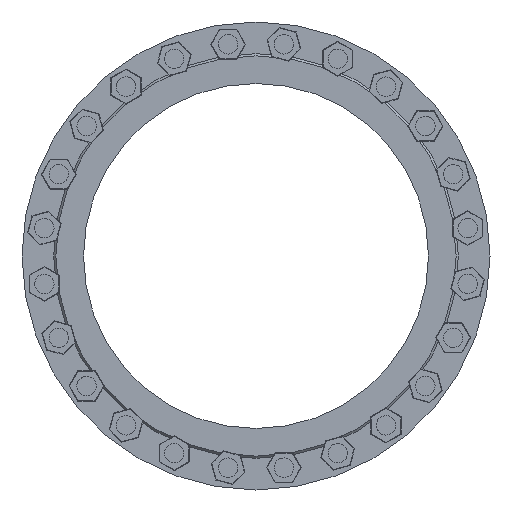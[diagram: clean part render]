
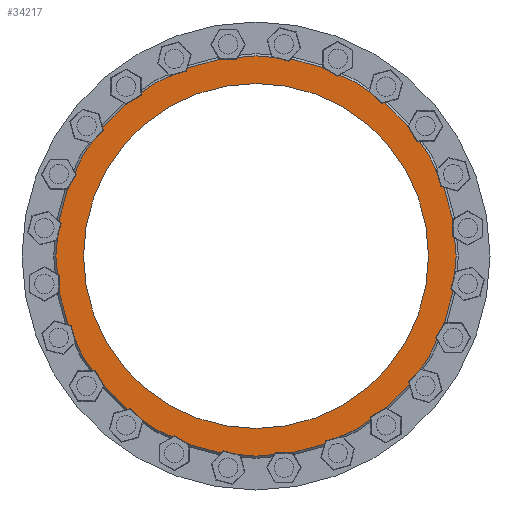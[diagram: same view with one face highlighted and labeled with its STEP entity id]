
A CAD part, left-side view. The second image highlights one B-rep face of the part: STEP entity #34217.
In plain terms, the highlighted planar face has unit normal (-1, 0, 0).
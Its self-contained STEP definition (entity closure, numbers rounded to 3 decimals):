
#252 = PLANE ( 'NONE',  #68475 ) ;
#371 = VERTEX_POINT ( 'NONE', #68265 ) ;
#3269 = DIRECTION ( 'NONE',  ( -1., 0., 0. ) ) ;
#11364 = EDGE_LOOP ( 'NONE', ( #18691 ) ) ;
#11539 = EDGE_CURVE ( 'NONE', #371, #371, #33065, .T. ) ;
#13412 = AXIS2_PLACEMENT_3D ( 'NONE', #29247, #3269, #50365 ) ;
#18691 = ORIENTED_EDGE ( 'NONE', *, *, #27986, .T. ) ;
#21398 = CARTESIAN_POINT ( 'NONE',  ( 0., 0., 0. ) ) ;
#22244 = ORIENTED_EDGE ( 'NONE', *, *, #11539, .F. ) ;
#27986 = EDGE_CURVE ( 'NONE', #68185, #68185, #53276, .T. ) ;
#29247 = CARTESIAN_POINT ( 'NONE',  ( 0., 0., 0. ) ) ;
#33065 = CIRCLE ( 'NONE', #43062, 400. ) ;
#34217 = ADVANCED_FACE ( 'NONE', ( #58078, #52891 ), #252, .F. ) ;
#36730 = DIRECTION ( 'NONE',  ( -1., 0., 0. ) ) ;
#43062 = AXIS2_PLACEMENT_3D ( 'NONE', #62358, #36730, #57516 ) ;
#43993 = EDGE_LOOP ( 'NONE', ( #22244 ) ) ;
#46352 = DIRECTION ( 'NONE',  ( 1., 0., 0. ) ) ;
#50365 = DIRECTION ( 'NONE',  ( 0., 0., 1. ) ) ;
#52891 = FACE_OUTER_BOUND ( 'NONE', #11364, .T. ) ;
#53276 = CIRCLE ( 'NONE', #13412, 464. ) ;
#57516 = DIRECTION ( 'NONE',  ( 0., 0., 1. ) ) ;
#58078 = FACE_BOUND ( 'NONE', #43993, .T. ) ;
#62358 = CARTESIAN_POINT ( 'NONE',  ( 0., 0., 0. ) ) ;
#62982 = CARTESIAN_POINT ( 'NONE',  ( 0., 0., 464. ) ) ;
#67470 = DIRECTION ( 'NONE',  ( 0., 0., -1. ) ) ;
#68185 = VERTEX_POINT ( 'NONE', #62982 ) ;
#68265 = CARTESIAN_POINT ( 'NONE',  ( 0., 0., 400. ) ) ;
#68475 = AXIS2_PLACEMENT_3D ( 'NONE', #21398, #46352, #67470 ) ;
